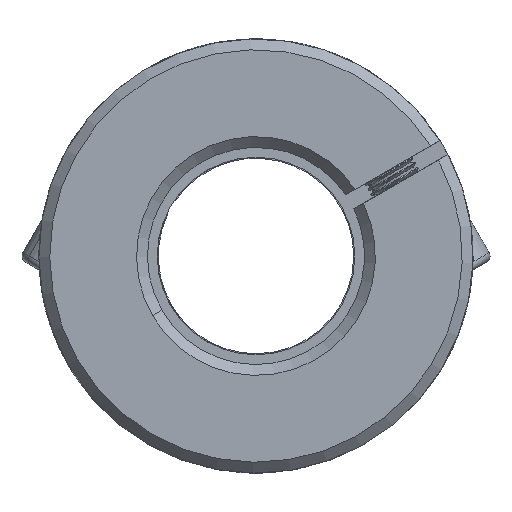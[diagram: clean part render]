
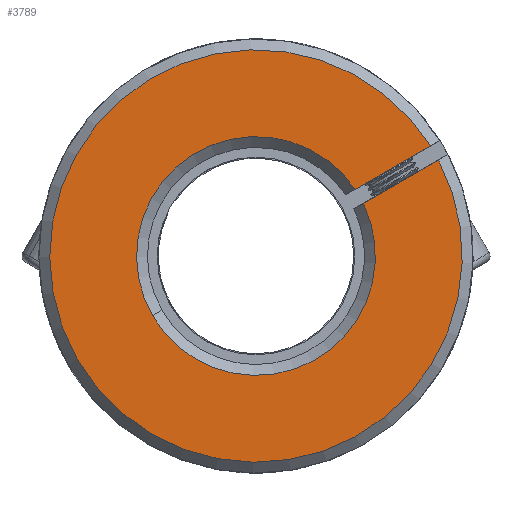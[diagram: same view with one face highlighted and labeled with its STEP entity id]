
A CAD part, front view. The second image highlights one B-rep face of the part: STEP entity #3789.
In plain terms, the highlighted planar face has unit normal (0, -1, 0).
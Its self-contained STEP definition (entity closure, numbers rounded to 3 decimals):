
#57 = CIRCLE ( 'NONE', #11061, 19. ) ;
#1342 = AXIS2_PLACEMENT_3D ( 'NONE', #4570, #2544, #10055 ) ;
#1457 = VECTOR ( 'NONE', #11236, 1000. ) ;
#1479 = EDGE_CURVE ( 'NONE', #5728, #1988, #7139, .T. ) ;
#1988 = VERTEX_POINT ( 'NONE', #12728 ) ;
#2521 = CARTESIAN_POINT ( 'NONE',  ( 7.68, -31.239, 46.14 ) ) ;
#2544 = DIRECTION ( 'NONE',  ( 0., 1., 0. ) ) ;
#2827 = LINE ( 'NONE', #11585, #9249 ) ;
#3571 = VERTEX_POINT ( 'NONE', #12454 ) ;
#3789 = ADVANCED_FACE ( 'NONE', ( #6910 ), #7778, .F. ) ;
#3937 = DIRECTION ( 'NONE',  ( 0.5, 0., -0.866 ) ) ;
#4475 = LINE ( 'NONE', #5844, #1457 ) ;
#4570 = CARTESIAN_POINT ( 'NONE',  ( 52.98, -31.239, 45.743 ) ) ;
#5065 = VERTEX_POINT ( 'NONE', #8425 ) ;
#5556 = DIRECTION ( 'NONE',  ( 0., -1., 0. ) ) ;
#5591 = EDGE_CURVE ( 'NONE', #5728, #5065, #2827, .T. ) ;
#5728 = VERTEX_POINT ( 'NONE', #10074 ) ;
#5844 = CARTESIAN_POINT ( 'NONE',  ( 6.812, -31.239, 45.638 ) ) ;
#5941 = CARTESIAN_POINT ( 'NONE',  ( -1.447, -31.239, 40. ) ) ;
#6160 = CARTESIAN_POINT ( 'NONE',  ( -1.447, -31.239, 40. ) ) ;
#6523 = ORIENTED_EDGE ( 'NONE', *, *, #5591, .F. ) ;
#6723 = EDGE_CURVE ( 'NONE', #3571, #12565, #4475, .T. ) ;
#6910 = FACE_OUTER_BOUND ( 'NONE', #7930, .T. ) ;
#6983 = DIRECTION ( 'NONE',  ( 0., 1., 0. ) ) ;
#7117 = EDGE_CURVE ( 'NONE', #3571, #5065, #57, .T. ) ;
#7139 = CIRCLE ( 'NONE', #12491, 11. ) ;
#7185 = AXIS2_PLACEMENT_3D ( 'NONE', #5941, #6983, #8989 ) ;
#7778 = PLANE ( 'NONE',  #1342 ) ;
#7930 = EDGE_LOOP ( 'NONE', ( #6523, #9458, #10072, #12293, #13243 ) ) ;
#8425 = CARTESIAN_POINT ( 'NONE',  ( 15.367, -31.239, 48.848 ) ) ;
#8831 = DIRECTION ( 'NONE',  ( 0.5, 0., -0.866 ) ) ;
#8989 = DIRECTION ( 'NONE',  ( 0.5, 0., -0.866 ) ) ;
#9249 = VECTOR ( 'NONE', #13692, 1000. ) ;
#9442 = DIRECTION ( 'NONE',  ( 0., 1., 0. ) ) ;
#9458 = ORIENTED_EDGE ( 'NONE', *, *, #1479, .T. ) ;
#9677 = EDGE_CURVE ( 'NONE', #1988, #12565, #10771, .T. ) ;
#10055 = DIRECTION ( 'NONE',  ( 0.5, 0., -0.866 ) ) ;
#10072 = ORIENTED_EDGE ( 'NONE', *, *, #9677, .T. ) ;
#10074 = CARTESIAN_POINT ( 'NONE',  ( 8.431, -31.239, 44.841 ) ) ;
#10771 = CIRCLE ( 'NONE', #7185, 11. ) ;
#11061 = AXIS2_PLACEMENT_3D ( 'NONE', #12013, #5556, #8831 ) ;
#11236 = DIRECTION ( 'NONE',  ( -0.866, 0., -0.5 ) ) ;
#11585 = CARTESIAN_POINT ( 'NONE',  ( 7.562, -31.239, 44.339 ) ) ;
#12013 = CARTESIAN_POINT ( 'NONE',  ( -1.447, -31.239, 40. ) ) ;
#12293 = ORIENTED_EDGE ( 'NONE', *, *, #6723, .F. ) ;
#12454 = CARTESIAN_POINT ( 'NONE',  ( 14.616, -31.239, 50.147 ) ) ;
#12491 = AXIS2_PLACEMENT_3D ( 'NONE', #6160, #9442, #3937 ) ;
#12565 = VERTEX_POINT ( 'NONE', #2521 ) ;
#12728 = CARTESIAN_POINT ( 'NONE',  ( -10.971, -31.239, 34.497 ) ) ;
#13243 = ORIENTED_EDGE ( 'NONE', *, *, #7117, .T. ) ;
#13692 = DIRECTION ( 'NONE',  ( 0.866, 0., 0.5 ) ) ;
